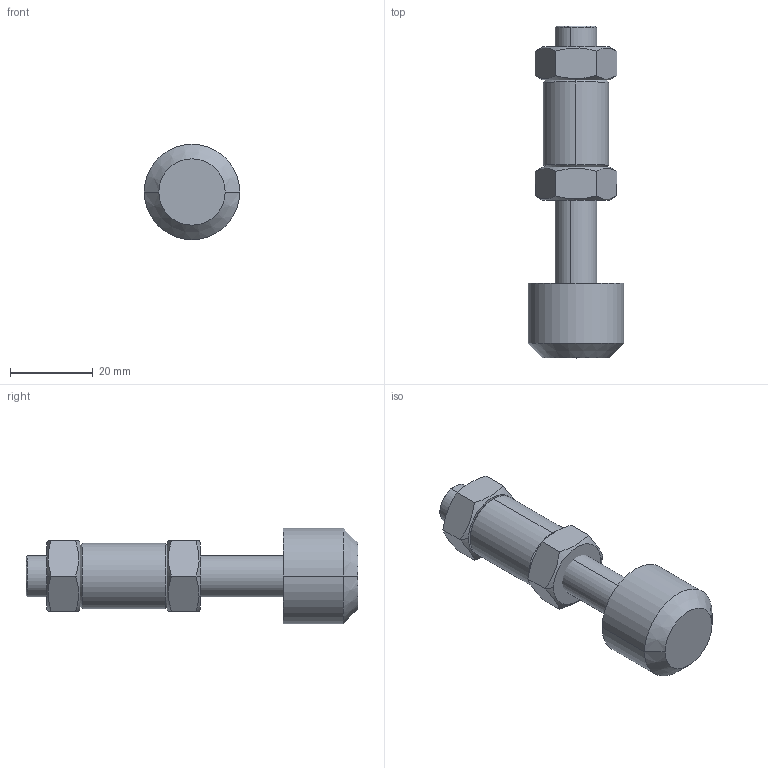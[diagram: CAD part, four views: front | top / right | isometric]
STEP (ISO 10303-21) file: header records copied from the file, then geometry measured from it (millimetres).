
FILE_DESCRIPTION (( 'STEP AP203' ), '1' );
FILE_NAME ('BRB-M10.STEP', '2011-05-23T16:24:23', ( 'Usuario' ), ( '' ), 'SwSTEP 2.0', 'SolidWorks 2011', '' );
FILE_SCHEMA (( 'CONFIG_CONTROL_DESIGN' ));
Length unit declared in the file: millimetre
Products named in the file (5): 20.20005; 11.50003; 20.20015; 20.20011; BRB-M10
Assembly tree (5 placements, depth 2):
  BRB-M10
    11.50003  x2
    20.20015
    20.20011
    20.20005
Bounding box: 23 x 80 x 23 mm (x, y, z)
Volume: 17191.3 mm3; surface area: 8582 mm2
Topology: 5 solids, 5 shells, 68 faces, 150 edges, 91 vertices
Faces by surface type: cone 32, plane 22, cylinder 14
Entity records: 1989 total; most frequent: CARTESIAN_POINT 349, DIRECTION 258, ORIENTED_EDGE 208, AXIS2_PLACEMENT_3D 108, EDGE_CURVE 104, VERTEX_POINT 63, EDGE_LOOP 55, ADVANCED_FACE 50
